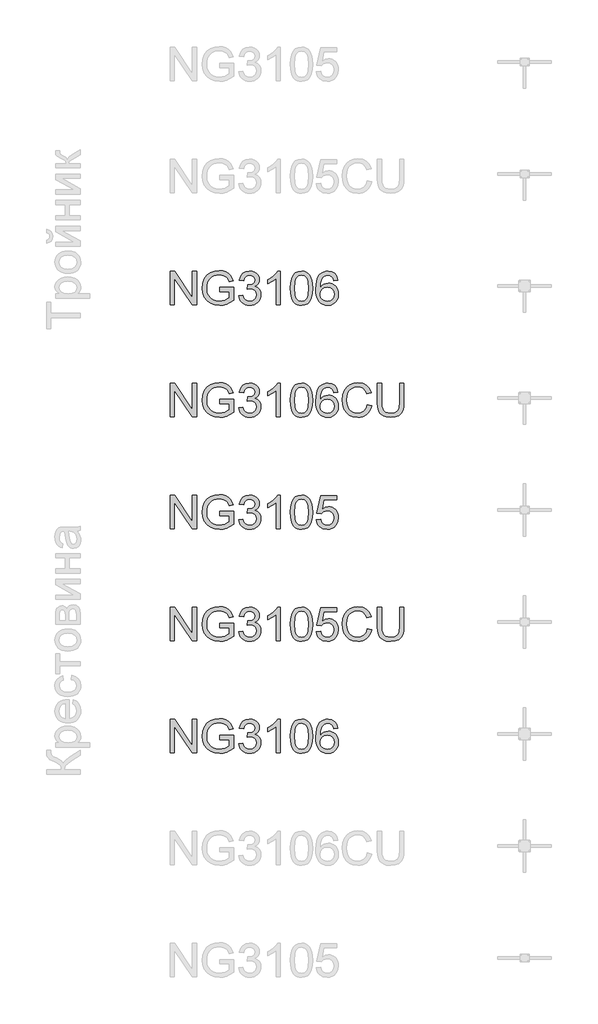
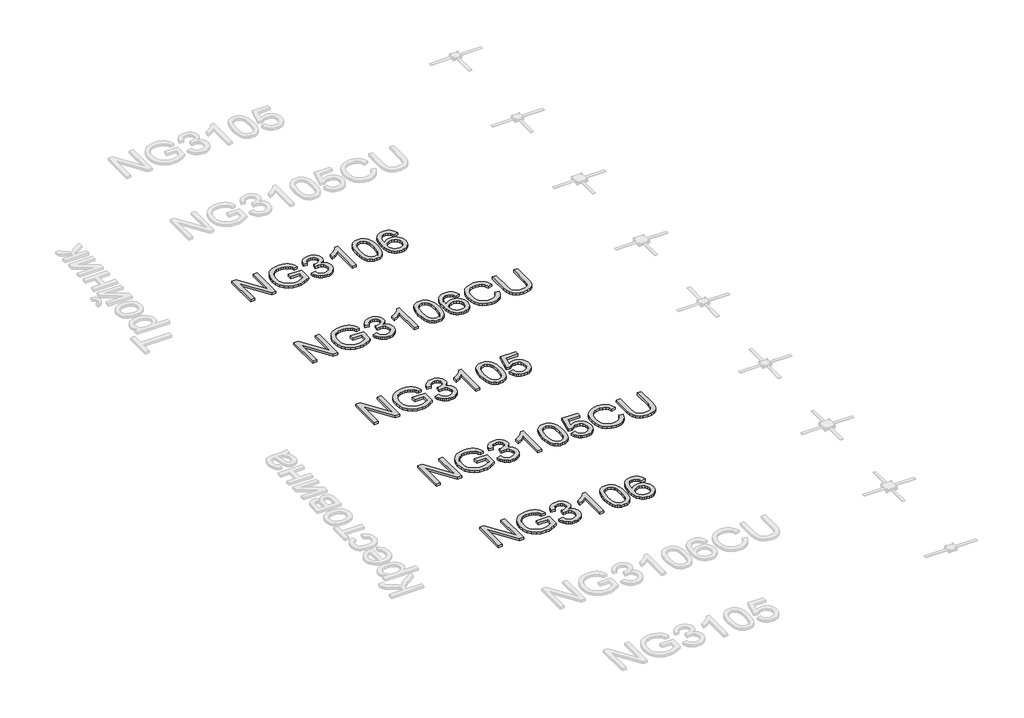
# One storey, part 120 of 124: 5 proxies.
"""IFC4 building model written with IfcOpenShell, lengths in millimetres."""

from ifc_helpers import new_model, si_unit, origin, origin_with_axes, place, context, project, spatial, polyline, outline, extrude, element, save

model = new_model("IFC4")

# Units and contexts
model_context = context("Model", 3, world=origin())
ifc_project = project(units=[si_unit("LENGTHUNIT", "METRE", prefix="MILLI")], contexts=[model_context])

# Site, building, storey
site = spatial("IfcSite", under=ifc_project)
building = spatial("IfcBuilding", under=site)
storey = spatial("IfcBuildingStorey", under=building, Name="Этаж 01", Elevation=0.0)

# Proxies
placement = place(None, origin())
element("IfcBuildingElementProxy", 1, Name="300", ObjectType="300", at=placement, inside=storey, context=model_context, shape_type="SweptSolid", body=[
    extrude(outline(polyline([(56699.8220677, -11519.5141033), (56699.8220677, -11218.1451728), (56740.1419344, -11218.1451728), (56897.5954283, -11456.9005877), (56897.5954283, -11218.1451728), (56935.2665446, -11218.1451728), (56935.2665446, -11519.5141033), (56894.9466779, -11519.5141033), (56737.493184, -11280.685112), (56737.493184, -11519.5141033), (56699.8220677, -11519.5141033)])), origin_with_axes(), (0.0, 0.0, 1.0), 20.0),
    extrude(outline(polyline([(57142.4576843, -11401.7918648), (57142.4576843, -11364.1207485), (57264.8888123, -11364.1207485), (57264.8888123, -11476.7662154), (57235.1363559, -11497.4595776), (57204.4458005, -11512.3036162), (57172.8907223, -11521.2431486), (57140.5446979, -11524.2229928), (57098.2842537, -11519.4865121), (57060.0889056, -11505.27707), (57028.3590835, -11482.0913073), (57005.4952175, -11450.4258646), (56991.6720515, -11412.4420486), (56987.0643295, -11370.301166), (56991.6536574, -11327.8567808), (57005.4216411, -11288.3738457), (57027.7980634, -11255.2552691), (57058.2127074, -11231.9039594), (57095.2584243, -11218.0532023), (57137.5280656, -11213.4362833), (57168.5589118, -11216.1126248), (57196.4627612, -11224.1416493), (57219.9612236, -11236.9439428), (57237.7759092, -11253.9400909), (57250.9552817, -11275.9486313), (57260.5478047, -11303.7881013), (57225.8197444, -11313.5737624), (57218.0666313, -11293.7173317), (57208.6396552, -11278.7353374), (57196.1684556, -11267.4413602), (57179.282672, -11258.6489805), (57159.1503298, -11252.9927948), (57136.9394544, -11251.1073996), (57110.9393944, -11253.1399476), (57088.7101248, -11259.2375917), (57070.3344191, -11268.6369766), (57055.8950508, -11280.5747474), (57036.5076697, -11309.6006368), (57027.6785018, -11338.037915), (57024.7354458, -11368.7560616), (57028.27631, -11404.780906), (57038.8989026, -11434.4229978), (57056.2813269, -11457.4708048), (57080.1016861, -11473.7127949), (57107.9779443, -11483.3421061), (57137.5280656, -11486.5518765), (57163.6200961, -11484.1330524), (57189.0683331, -11476.87658), (57211.1688439, -11466.8793868), (57227.217696, -11456.2384001), (57227.217696, -11401.7918648), (57142.4576843, -11401.7918648)])), origin_with_axes(), (0.0, 0.0, 1.0), 20.0),
    extrude(outline(polyline([(57311.9777077, -11439.4629811), (57349.648824, -11434.7540916), (57358.0825187, -11458.427298), (57370.4341567, -11474.4117707), (57387.3107432, -11483.51685), (57409.3192836, -11486.5518765), (57435.1445997, -11482.3764158), (57455.0838038, -11469.8500339), (57467.8309149, -11451.1616286), (57472.079952, -11428.5000977), (57467.8677031, -11406.988198), (57455.2309566, -11389.5413944), (57436.1010928, -11377.9807027), (57412.4094924, -11374.1271388), (57385.9955651, -11378.2474171), (57390.1894198, -11340.5763008), (57396.2226846, -11341.0177592), (57418.792245, -11338.3138265), (57438.9705724, -11330.2020285), (57453.2076056, -11316.4800301), (57457.9532834, -11296.9454962), (57454.5135867, -11280.6759149), (57444.1944967, -11267.4781484), (57428.4491473, -11258.7317539), (57408.7306724, -11255.8162891), (57388.9754093, -11258.7593451), (57372.8253897, -11267.588513), (57361.0347717, -11282.3037928), (57354.3577135, -11302.9051845), (57316.6865972, -11298.196295), (57327.7782394, -11264.3695455), (57347.5151084, -11239.1144465), (57374.5176468, -11223.3874912), (57407.4062972, -11218.1451728), (57431.0887007, -11220.7295438), (57452.8397236, -11228.4826569), (57471.1786411, -11240.7147332), (57484.624728, -11256.7359941), (57492.8744817, -11275.1944732), (57495.6243997, -11294.7382042), (57493.0124375, -11312.948363), (57485.176551, -11329.4662646), (57472.2271048, -11343.5377509), (57454.2744634, -11354.4086638), (57477.8556993, -11363.9368075), (57495.3300941, -11380.1604035), (57506.1458247, -11402.196535), (57509.7510683, -11429.1622852), (57507.9484465, -11448.2737549), (57502.5405812, -11465.8769084), (57493.5274723, -11481.9717457), (57480.9091199, -11496.5582668), (57465.536251, -11508.6615844), (57448.2595928, -11517.3068113), (57429.0791453, -11522.4939474), (57407.9949084, -11524.2229928), (57388.9386211, -11522.7468663), (57371.5745909, -11518.3184868), (57355.9028179, -11510.9378542), (57341.9233021, -11500.6049687), (57330.201662, -11487.9268354), (57321.3035162, -11473.5104598), (57315.2288648, -11457.3558417), (57311.9777077, -11439.4629811)])), origin_with_axes(), (0.0, 0.0, 1.0), 20.0),
    extrude(outline(polyline([(57683.9799812, -11519.5141033), (57646.3088649, -11519.5141033), (57646.3088649, -11284.6582375), (57610.6243114, -11310.0788834), (57570.9666323, -11329.0983826), (57570.9666323, -11293.4874054), (57600.5535417, -11277.3925681), (57626.1857197, -11258.2443103), (57646.3916383, -11237.8820419), (57659.6997695, -11218.1451728), (57683.9799812, -11218.1451728), (57683.9799812, -11519.5141033)])), origin_with_axes(), (0.0, 0.0, 1.0), 20.0),
    extrude(outline(polyline([(57773.4488824, -11371.2576592), (57776.2171944, -11323.0191326), (57784.5221305, -11284.5478729), (57798.2809171, -11255.2552691), (57817.4107808, -11234.5527098), (57842.0496775, -11222.2470571), (57872.3355627, -11218.1451728), (57895.5489166, -11220.573194), (57916.3342493, -11227.8572575), (57933.7166736, -11239.7122548), (57946.7213021, -11255.8530773), (57956.5437514, -11276.1417694), (57964.3796379, -11300.4403751), (57969.5115917, -11331.2964775), (57971.222243, -11371.2576592), (57968.4815222, -11419.2202743), (57960.2593596, -11457.5995635), (57946.5833464, -11486.9197585), (57927.4810738, -11507.7050912), (57902.7869949, -11520.0935174), (57872.3355627, -11524.2229928), (57851.5870182, -11522.4295681), (57833.1929184, -11517.0492939), (57817.1532634, -11508.0821703), (57803.4680532, -11495.5281972), (57790.334666, -11472.8344766), (57780.9536751, -11444.5581467), (57775.3250806, -11410.6992076), (57773.4488824, -11371.2576592)]), holes=[polyline([(57811.1199987, -11371.1840828), (57815.5345827, -11430.4406752), (57821.0528126, -11450.7086739), (57828.7783345, -11464.7364742), (57848.4968094, -11481.0980259), (57872.3355627, -11486.5518765), (57896.174316, -11481.0796318), (57915.892791, -11464.6628978), (57923.6183128, -11450.6121048), (57929.1365428, -11430.3487047), (57933.5511267, -11371.1840828), (57929.2836956, -11313.2610627), (57923.9494066, -11293.0597426), (57916.4814021, -11278.6985492), (57896.7997154, -11261.5368541), (57871.8941043, -11255.8162891), (57848.3128684, -11260.8562725), (57829.3669457, -11275.9762225), (57821.3839064, -11291.6112072), (57815.6817355, -11312.6908456), (57811.1199987, -11371.1840828)])]), origin_with_axes(), (0.0, 0.0, 1.0), 20.0),
    extrude(outline(polyline([(58197.2489409, -11298.196295), (58159.5778246, -11302.9051845), (58153.5077716, -11284.2351732), (58145.3040031, -11271.4880621), (58128.2158845, -11259.7342324), (58107.5593104, -11255.8162891), (58090.0481275, -11258.0971575), (58073.5670141, -11264.9397626), (58059.4127543, -11279.3515398), (58047.8520626, -11299.1895763), (58040.0437673, -11327.2497755), (58037.1466966, -11366.3280405), (58052.2574495, -11348.6972959), (58070.3664407, -11336.2720815), (58090.4619947, -11328.9052445), (58111.532436, -11326.4496322), (58129.6322301, -11328.1280938), (58146.3340727, -11333.1634786), (58161.6379637, -11341.5557866), (58175.5439031, -11353.3050178), (58187.0999963, -11367.7121965), (58195.3543486, -11384.0783467), (58200.3069599, -11402.4034686), (58201.9578304, -11422.6875621), (58198.8492275, -11449.6625094), (58189.523419, -11474.669288), (58174.7529569, -11495.8776851), (58155.3103934, -11511.4574876), (58132.0786454, -11521.0316165), (58105.9406297, -11524.2229928), (58083.4837331, -11522.1076713), (58063.2019389, -11515.7617069), (58045.0952469, -11505.1850995), (58029.1636573, -11490.3778492), (58016.1751236, -11470.7145566), (58006.8975995, -11445.5698222), (58001.3310851, -11414.9436461), (57999.4755803, -11378.8360283), (58001.5357194, -11338.3552133), (58007.7161369, -11303.8064954), (58018.0168328, -11275.1898747), (58032.437807, -11252.5053512), (58048.0681933, -11237.4727731), (58066.1909801, -11226.7352174), (58086.8061674, -11220.292684), (58109.9137552, -11218.1451728), (58142.9679525, -11223.4610676), (58169.437062, -11239.4087521), (58187.9783146, -11264.7374275), (58197.2489409, -11298.196295)]), holes=[polyline([(58037.1466966, -11422.0989509), (58039.3263974, -11438.7915965), (58045.8654998, -11454.7300839), (58056.0190429, -11468.4336882), (58069.0420655, -11478.4216844), (58084.7598238, -11484.5193285), (58102.9975737, -11486.5518765), (58127.8571995, -11482.3396276), (58147.4009305, -11469.7028811), (58160.0652682, -11449.8372534), (58164.2867141, -11423.9383609), (58160.1204505, -11399.0787351), (58147.6216597, -11380.1236153), (58127.7468349, -11368.1214652), (58101.4524693, -11364.1207485), (58076.6296317, -11368.1214652), (58055.8718901, -11380.1236153), (58041.8279949, -11398.6188826), (58037.1466966, -11422.0989509)])]), origin_with_axes(), (0.0, 0.0, 1.0), 20.0),
])
element("IfcBuildingElementProxy", 2, Name="300", ObjectType="300", at=placement, inside=storey, context=model_context, shape_type="SweptSolid", body=[
    extrude(outline(polyline([(56699.8220677, -12519.5141033), (56699.8220677, -12218.1451728), (56740.1419344, -12218.1451728), (56897.5954283, -12456.9005877), (56897.5954283, -12218.1451728), (56935.2665446, -12218.1451728), (56935.2665446, -12519.5141033), (56894.9466779, -12519.5141033), (56737.493184, -12280.685112), (56737.493184, -12519.5141033), (56699.8220677, -12519.5141033)])), origin_with_axes(), (0.0, 0.0, 1.0), 20.0),
    extrude(outline(polyline([(57142.4576843, -12401.7918648), (57142.4576843, -12364.1207485), (57264.8888123, -12364.1207485), (57264.8888123, -12476.7662154), (57235.1363559, -12497.4595776), (57204.4458005, -12512.3036162), (57172.8907223, -12521.2431486), (57140.5446979, -12524.2229928), (57098.2842537, -12519.4865121), (57060.0889056, -12505.27707), (57028.3590835, -12482.0913073), (57005.4952175, -12450.4258646), (56991.6720515, -12412.4420486), (56987.0643295, -12370.301166), (56991.6536574, -12327.8567808), (57005.4216411, -12288.3738457), (57027.7980634, -12255.2552691), (57058.2127074, -12231.9039594), (57095.2584243, -12218.0532023), (57137.5280656, -12213.4362833), (57168.5589118, -12216.1126248), (57196.4627612, -12224.1416493), (57219.9612236, -12236.9439428), (57237.7759092, -12253.9400909), (57250.9552817, -12275.9486313), (57260.5478047, -12303.7881013), (57225.8197444, -12313.5737624), (57218.0666313, -12293.7173317), (57208.6396552, -12278.7353374), (57196.1684556, -12267.4413602), (57179.282672, -12258.6489805), (57159.1503298, -12252.9927948), (57136.9394544, -12251.1073996), (57110.9393944, -12253.1399476), (57088.7101248, -12259.2375917), (57070.3344191, -12268.6369766), (57055.8950508, -12280.5747474), (57036.5076697, -12309.6006368), (57027.6785018, -12338.037915), (57024.7354458, -12368.7560616), (57028.27631, -12404.780906), (57038.8989026, -12434.4229978), (57056.2813269, -12457.4708048), (57080.1016861, -12473.7127949), (57107.9779443, -12483.3421061), (57137.5280656, -12486.5518765), (57163.6200961, -12484.1330524), (57189.0683331, -12476.87658), (57211.1688439, -12466.8793868), (57227.217696, -12456.2384001), (57227.217696, -12401.7918648), (57142.4576843, -12401.7918648)])), origin_with_axes(), (0.0, 0.0, 1.0), 20.0),
    extrude(outline(polyline([(57311.9777077, -12439.4629811), (57349.648824, -12434.7540916), (57358.0825187, -12458.427298), (57370.4341567, -12474.4117707), (57387.3107432, -12483.51685), (57409.3192836, -12486.5518765), (57435.1445997, -12482.3764158), (57455.0838038, -12469.8500339), (57467.8309149, -12451.1616286), (57472.079952, -12428.5000977), (57467.8677031, -12406.988198), (57455.2309566, -12389.5413944), (57436.1010928, -12377.9807027), (57412.4094924, -12374.1271388), (57385.9955651, -12378.2474171), (57390.1894198, -12340.5763008), (57396.2226846, -12341.0177592), (57418.792245, -12338.3138265), (57438.9705724, -12330.2020285), (57453.2076056, -12316.4800301), (57457.9532834, -12296.9454962), (57454.5135867, -12280.6759149), (57444.1944967, -12267.4781484), (57428.4491473, -12258.7317539), (57408.7306724, -12255.8162891), (57388.9754093, -12258.7593451), (57372.8253897, -12267.588513), (57361.0347717, -12282.3037928), (57354.3577135, -12302.9051845), (57316.6865972, -12298.196295), (57327.7782394, -12264.3695455), (57347.5151084, -12239.1144465), (57374.5176468, -12223.3874912), (57407.4062972, -12218.1451728), (57431.0887007, -12220.7295438), (57452.8397236, -12228.4826569), (57471.1786411, -12240.7147332), (57484.624728, -12256.7359941), (57492.8744817, -12275.1944732), (57495.6243997, -12294.7382042), (57493.0124375, -12312.948363), (57485.176551, -12329.4662646), (57472.2271048, -12343.5377509), (57454.2744634, -12354.4086638), (57477.8556993, -12363.9368075), (57495.3300941, -12380.1604035), (57506.1458247, -12402.196535), (57509.7510683, -12429.1622852), (57507.9484465, -12448.2737549), (57502.5405812, -12465.8769084), (57493.5274723, -12481.9717457), (57480.9091199, -12496.5582668), (57465.536251, -12508.6615844), (57448.2595928, -12517.3068113), (57429.0791453, -12522.4939474), (57407.9949084, -12524.2229928), (57388.9386211, -12522.7468663), (57371.5745909, -12518.3184868), (57355.9028179, -12510.9378542), (57341.9233021, -12500.6049687), (57330.201662, -12487.9268354), (57321.3035162, -12473.5104598), (57315.2288648, -12457.3558417), (57311.9777077, -12439.4629811)])), origin_with_axes(), (0.0, 0.0, 1.0), 20.0),
    extrude(outline(polyline([(57683.9799812, -12519.5141033), (57646.3088649, -12519.5141033), (57646.3088649, -12284.6582375), (57610.6243114, -12310.0788834), (57570.9666323, -12329.0983826), (57570.9666323, -12293.4874054), (57600.5535417, -12277.3925681), (57626.1857197, -12258.2443103), (57646.3916383, -12237.8820419), (57659.6997695, -12218.1451728), (57683.9799812, -12218.1451728), (57683.9799812, -12519.5141033)])), origin_with_axes(), (0.0, 0.0, 1.0), 20.0),
    extrude(outline(polyline([(57773.4488824, -12371.2576592), (57776.2171944, -12323.0191326), (57784.5221305, -12284.5478729), (57798.2809171, -12255.2552691), (57817.4107808, -12234.5527098), (57842.0496775, -12222.2470571), (57872.3355627, -12218.1451728), (57895.5489166, -12220.573194), (57916.3342493, -12227.8572575), (57933.7166736, -12239.7122548), (57946.7213021, -12255.8530773), (57956.5437514, -12276.1417694), (57964.3796379, -12300.4403751), (57969.5115917, -12331.2964775), (57971.222243, -12371.2576592), (57968.4815222, -12419.2202743), (57960.2593596, -12457.5995635), (57946.5833464, -12486.9197585), (57927.4810738, -12507.7050912), (57902.7869949, -12520.0935174), (57872.3355627, -12524.2229928), (57851.5870182, -12522.4295681), (57833.1929184, -12517.0492939), (57817.1532634, -12508.0821703), (57803.4680532, -12495.5281972), (57790.334666, -12472.8344766), (57780.9536751, -12444.5581467), (57775.3250806, -12410.6992076), (57773.4488824, -12371.2576592)]), holes=[polyline([(57811.1199987, -12371.1840828), (57815.5345827, -12430.4406752), (57821.0528126, -12450.7086739), (57828.7783345, -12464.7364742), (57848.4968094, -12481.0980259), (57872.3355627, -12486.5518765), (57896.174316, -12481.0796318), (57915.892791, -12464.6628978), (57923.6183128, -12450.6121048), (57929.1365428, -12430.3487047), (57933.5511267, -12371.1840828), (57929.2836956, -12313.2610627), (57923.9494066, -12293.0597426), (57916.4814021, -12278.6985492), (57896.7997154, -12261.5368541), (57871.8941043, -12255.8162891), (57848.3128684, -12260.8562725), (57829.3669457, -12275.9762225), (57821.3839064, -12291.6112072), (57815.6817355, -12312.6908456), (57811.1199987, -12371.1840828)])]), origin_with_axes(), (0.0, 0.0, 1.0), 20.0),
    extrude(outline(polyline([(58197.2489409, -12298.196295), (58159.5778246, -12302.9051845), (58153.5077716, -12284.2351732), (58145.3040031, -12271.4880621), (58128.2158845, -12259.7342324), (58107.5593104, -12255.8162891), (58090.0481275, -12258.0971575), (58073.5670141, -12264.9397626), (58059.4127543, -12279.3515398), (58047.8520626, -12299.1895763), (58040.0437673, -12327.2497755), (58037.1466966, -12366.3280405), (58052.2574495, -12348.6972959), (58070.3664407, -12336.2720815), (58090.4619947, -12328.9052445), (58111.532436, -12326.4496322), (58129.6322301, -12328.1280938), (58146.3340727, -12333.1634786), (58161.6379637, -12341.5557866), (58175.5439031, -12353.3050178), (58187.0999963, -12367.7121965), (58195.3543486, -12384.0783467), (58200.3069599, -12402.4034686), (58201.9578304, -12422.6875621), (58198.8492275, -12449.6625094), (58189.523419, -12474.669288), (58174.7529569, -12495.8776851), (58155.3103934, -12511.4574876), (58132.0786454, -12521.0316165), (58105.9406297, -12524.2229928), (58083.4837331, -12522.1076713), (58063.2019389, -12515.7617069), (58045.0952469, -12505.1850995), (58029.1636573, -12490.3778492), (58016.1751236, -12470.7145566), (58006.8975995, -12445.5698222), (58001.3310851, -12414.9436461), (57999.4755803, -12378.8360283), (58001.5357194, -12338.3552133), (58007.7161369, -12303.8064954), (58018.0168328, -12275.1898747), (58032.437807, -12252.5053512), (58048.0681933, -12237.4727731), (58066.1909801, -12226.7352174), (58086.8061674, -12220.292684), (58109.9137552, -12218.1451728), (58142.9679525, -12223.4610676), (58169.437062, -12239.4087521), (58187.9783146, -12264.7374275), (58197.2489409, -12298.196295)]), holes=[polyline([(58037.1466966, -12422.0989509), (58039.3263974, -12438.7915965), (58045.8654998, -12454.7300839), (58056.0190429, -12468.4336882), (58069.0420655, -12478.4216844), (58084.7598238, -12484.5193285), (58102.9975737, -12486.5518765), (58127.8571995, -12482.3396276), (58147.4009305, -12469.7028811), (58160.0652682, -12449.8372534), (58164.2867141, -12423.9383609), (58160.1204505, -12399.0787351), (58147.6216597, -12380.1236153), (58127.7468349, -12368.1214652), (58101.4524693, -12364.1207485), (58076.6296317, -12368.1214652), (58055.8718901, -12380.1236153), (58041.8279949, -12398.6188826), (58037.1466966, -12422.0989509)])]), origin_with_axes(), (0.0, 0.0, 1.0), 20.0),
    extrude(outline(polyline([(58460.946755, -12412.3868663), (58498.6178713, -12422.0989509), (58491.1636624, -12445.5261362), (58481.235447, -12465.99647), (58468.8332253, -12483.5099522), (58453.9569971, -12498.0665829), (58436.9424548, -12509.5100123), (58418.1252908, -12517.6838903), (58397.5055049, -12522.5882172), (58375.0830973, -12524.2229928), (58331.3879134, -12519.27498), (58296.6874442, -12504.4309415), (58270.0895759, -12480.2059121), (58250.7021948, -12447.1149266), (58238.8655916, -12408.2114056), (58234.9200572, -12366.5487697), (58239.3806264, -12322.6052653), (58252.7623339, -12284.6582375), (58274.3662041, -12253.9124998), (58303.4932611, -12231.5728656), (58338.0373804, -12217.9704289), (58375.8924377, -12213.4362833), (58417.1963887, -12219.3040011), (58435.1651249, -12226.6386484), (58451.3450349, -12236.9071546), (58465.4694043, -12249.8382067), (58477.2715185, -12265.1604918), (58493.9089818, -12302.9787609), (58456.2378655, -12311.9550816), (58443.1780546, -12284.4834936), (58425.3357779, -12265.6387384), (58402.490306, -12254.7402343), (58374.4209097, -12251.1073996), (58342.0656883, -12255.1357074), (58315.4862141, -12267.220631), (58295.3170837, -12286.0929773), (58282.1928935, -12310.4835536), (58274.9916035, -12338.0563091), (58272.5911735, -12366.4751933), (58275.4330619, -12401.27683), (58283.9587271, -12431.3695772), (58298.4900659, -12455.6038036), (58319.3489751, -12472.8298781), (58344.3557537, -12483.1213769), (58371.330701, -12486.5518765), (58402.7754145, -12481.8797752), (58428.9778096, -12467.8634711), (58448.7606639, -12444.6501172), (58460.946755, -12412.3868663)])), origin_with_axes(), (0.0, 0.0, 1.0), 20.0),
    extrude(outline(polyline([(58748.1890168, -12218.1451728), (58785.8601331, -12218.1451728), (58785.8601331, -12392.0062037), (58783.3033533, -12432.7215435), (58775.6330137, -12464.0742866), (58761.30401, -12488.2625278), (58738.7712378, -12507.484362), (58707.9795148, -12520.0383351), (58668.8736587, -12524.2229928), (58630.6231282, -12520.580961), (58600.0429374, -12509.6548658), (58577.1238891, -12491.8217861), (58561.8567863, -12467.4588009), (58553.2759387, -12434.7816827), (58550.4156562, -12392.0062037), (58550.4156562, -12218.1451728), (58588.0867725, -12218.1451728), (58588.0867725, -12390.6818285), (58589.9445766, -12424.5361692), (58595.5179888, -12448.108208), (58605.6163496, -12464.4329715), (58621.0489993, -12476.5454862), (58641.1721444, -12484.0502789), (58665.3419915, -12486.5518765), (58703.6569013, -12481.6038637), (58717.9997006, -12475.4188476), (58729.1327295, -12466.7598252), (58737.4698552, -12454.5829311), (58743.424945, -12437.8443003), (58748.1890168, -12390.6818285), (58748.1890168, -12218.1451728)])), origin_with_axes(), (0.0, 0.0, 1.0), 20.0),
])
element("IfcBuildingElementProxy", 3, Name="300", ObjectType="300", at=placement, inside=storey, context=model_context, shape_type="SweptSolid", body=[
    extrude(outline(polyline([(56699.8220677, -13519.5141033), (56699.8220677, -13218.1451728), (56740.1419344, -13218.1451728), (56897.5954283, -13456.9005877), (56897.5954283, -13218.1451728), (56935.2665446, -13218.1451728), (56935.2665446, -13519.5141033), (56894.9466779, -13519.5141033), (56737.493184, -13280.685112), (56737.493184, -13519.5141033), (56699.8220677, -13519.5141033)])), origin_with_axes(), (0.0, 0.0, 1.0), 20.0),
    extrude(outline(polyline([(57142.4576843, -13401.7918648), (57142.4576843, -13364.1207485), (57264.8888123, -13364.1207485), (57264.8888123, -13476.7662154), (57235.1363559, -13497.4595776), (57204.4458005, -13512.3036162), (57172.8907223, -13521.2431486), (57140.5446979, -13524.2229928), (57098.2842537, -13519.4865121), (57060.0889056, -13505.27707), (57028.3590835, -13482.0913073), (57005.4952175, -13450.4258646), (56991.6720515, -13412.4420486), (56987.0643295, -13370.301166), (56991.6536574, -13327.8567808), (57005.4216411, -13288.3738457), (57027.7980634, -13255.2552691), (57058.2127074, -13231.9039594), (57095.2584243, -13218.0532023), (57137.5280656, -13213.4362833), (57168.5589118, -13216.1126248), (57196.4627612, -13224.1416493), (57219.9612236, -13236.9439428), (57237.7759092, -13253.9400909), (57250.9552817, -13275.9486313), (57260.5478047, -13303.7881013), (57225.8197444, -13313.5737624), (57218.0666313, -13293.7173317), (57208.6396552, -13278.7353374), (57196.1684556, -13267.4413602), (57179.282672, -13258.6489805), (57159.1503298, -13252.9927948), (57136.9394544, -13251.1073996), (57110.9393944, -13253.1399476), (57088.7101248, -13259.2375917), (57070.3344191, -13268.6369766), (57055.8950508, -13280.5747474), (57036.5076697, -13309.6006368), (57027.6785018, -13338.037915), (57024.7354458, -13368.7560616), (57028.27631, -13404.780906), (57038.8989026, -13434.4229978), (57056.2813269, -13457.4708048), (57080.1016861, -13473.7127949), (57107.9779443, -13483.3421061), (57137.5280656, -13486.5518765), (57163.6200961, -13484.1330524), (57189.0683331, -13476.87658), (57211.1688439, -13466.8793868), (57227.217696, -13456.2384001), (57227.217696, -13401.7918648), (57142.4576843, -13401.7918648)])), origin_with_axes(), (0.0, 0.0, 1.0), 20.0),
    extrude(outline(polyline([(57311.9777077, -13439.4629811), (57349.648824, -13434.7540916), (57358.0825187, -13458.427298), (57370.4341567, -13474.4117707), (57387.3107432, -13483.51685), (57409.3192836, -13486.5518765), (57435.1445997, -13482.3764158), (57455.0838038, -13469.8500339), (57467.8309149, -13451.1616286), (57472.079952, -13428.5000977), (57467.8677031, -13406.988198), (57455.2309566, -13389.5413944), (57436.1010928, -13377.9807027), (57412.4094924, -13374.1271388), (57385.9955651, -13378.2474171), (57390.1894198, -13340.5763008), (57396.2226846, -13341.0177592), (57418.792245, -13338.3138265), (57438.9705724, -13330.2020285), (57453.2076056, -13316.4800301), (57457.9532834, -13296.9454962), (57454.5135867, -13280.6759149), (57444.1944967, -13267.4781484), (57428.4491473, -13258.7317539), (57408.7306724, -13255.8162891), (57388.9754093, -13258.7593451), (57372.8253897, -13267.588513), (57361.0347717, -13282.3037928), (57354.3577135, -13302.9051845), (57316.6865972, -13298.196295), (57327.7782394, -13264.3695455), (57347.5151084, -13239.1144465), (57374.5176468, -13223.3874912), (57407.4062972, -13218.1451728), (57431.0887007, -13220.7295438), (57452.8397236, -13228.4826569), (57471.1786411, -13240.7147332), (57484.624728, -13256.7359941), (57492.8744817, -13275.1944732), (57495.6243997, -13294.7382042), (57493.0124375, -13312.948363), (57485.176551, -13329.4662646), (57472.2271048, -13343.5377509), (57454.2744634, -13354.4086638), (57477.8556993, -13363.9368075), (57495.3300941, -13380.1604035), (57506.1458247, -13402.196535), (57509.7510683, -13429.1622852), (57507.9484465, -13448.2737549), (57502.5405812, -13465.8769084), (57493.5274723, -13481.9717457), (57480.9091199, -13496.5582668), (57465.536251, -13508.6615844), (57448.2595928, -13517.3068113), (57429.0791453, -13522.4939474), (57407.9949084, -13524.2229928), (57388.9386211, -13522.7468663), (57371.5745909, -13518.3184868), (57355.9028179, -13510.9378542), (57341.9233021, -13500.6049687), (57330.201662, -13487.9268354), (57321.3035162, -13473.5104598), (57315.2288648, -13457.3558417), (57311.9777077, -13439.4629811)])), origin_with_axes(), (0.0, 0.0, 1.0), 20.0),
    extrude(outline(polyline([(57683.9799812, -13519.5141033), (57646.3088649, -13519.5141033), (57646.3088649, -13284.6582375), (57610.6243114, -13310.0788834), (57570.9666323, -13329.0983826), (57570.9666323, -13293.4874054), (57600.5535417, -13277.3925681), (57626.1857197, -13258.2443103), (57646.3916383, -13237.8820419), (57659.6997695, -13218.1451728), (57683.9799812, -13218.1451728), (57683.9799812, -13519.5141033)])), origin_with_axes(), (0.0, 0.0, 1.0), 20.0),
    extrude(outline(polyline([(57773.4488824, -13371.2576592), (57776.2171944, -13323.0191326), (57784.5221305, -13284.5478729), (57798.2809171, -13255.2552691), (57817.4107808, -13234.5527098), (57842.0496775, -13222.2470571), (57872.3355627, -13218.1451728), (57895.5489166, -13220.573194), (57916.3342493, -13227.8572575), (57933.7166736, -13239.7122548), (57946.7213021, -13255.8530773), (57956.5437514, -13276.1417694), (57964.3796379, -13300.4403751), (57969.5115917, -13331.2964775), (57971.222243, -13371.2576592), (57968.4815222, -13419.2202743), (57960.2593596, -13457.5995635), (57946.5833464, -13486.9197585), (57927.4810738, -13507.7050912), (57902.7869949, -13520.0935174), (57872.3355627, -13524.2229928), (57851.5870182, -13522.4295681), (57833.1929184, -13517.0492939), (57817.1532634, -13508.0821703), (57803.4680532, -13495.5281972), (57790.334666, -13472.8344766), (57780.9536751, -13444.5581467), (57775.3250806, -13410.6992076), (57773.4488824, -13371.2576592)]), holes=[polyline([(57811.1199987, -13371.1840828), (57815.5345827, -13430.4406752), (57821.0528126, -13450.7086739), (57828.7783345, -13464.7364742), (57848.4968094, -13481.0980259), (57872.3355627, -13486.5518765), (57896.174316, -13481.0796318), (57915.892791, -13464.6628978), (57923.6183128, -13450.6121048), (57929.1365428, -13430.3487047), (57933.5511267, -13371.1840828), (57929.2836956, -13313.2610627), (57923.9494066, -13293.0597426), (57916.4814021, -13278.6985492), (57896.7997154, -13261.5368541), (57871.8941043, -13255.8162891), (57848.3128684, -13260.8562725), (57829.3669457, -13275.9762225), (57821.3839064, -13291.6112072), (57815.6817355, -13312.6908456), (57811.1199987, -13371.1840828)])]), origin_with_axes(), (0.0, 0.0, 1.0), 20.0),
    extrude(outline(polyline([(58004.1844698, -13439.4629811), (58041.8555861, -13434.7540916), (58048.7717676, -13457.3696372), (58060.838297, -13473.5656421), (58077.9999921, -13483.3053179), (58100.2016705, -13486.5518765), (58127.204209, -13482.036125), (58147.4377187, -13468.4888705), (58160.0744652, -13447.4736116), (58164.2867141, -13420.5538466), (58160.3411797, -13395.2067771), (58148.5045765, -13375.8193959), (58128.684934, -13363.5137432), (58100.7902817, -13359.411859), (58082.5157436, -13361.0489338), (58067.7176904, -13365.9601585), (58046.5644756, -13382.9563067), (58008.8933593, -13378.2474171), (58041.8555861, -13222.8540624), (58187.8311618, -13222.8540624), (58187.8311618, -13260.5251787), (58072.3162153, -13260.5251787), (58056.2029839, -13343.5193568), (58083.1135519, -13327.1853962), (58111.3117068, -13321.7407427), (58129.657522, -13323.4284013), (58146.5088167, -13328.4913773), (58161.8655907, -13336.9296705), (58175.7278441, -13348.7432811), (58187.2034631, -13363.2102406), (58195.4003338, -13379.6085805), (58200.3184563, -13397.9383009), (58201.9578304, -13418.1994018), (58196.0533244, -13455.8705181), (58188.6726918, -13472.6643312), (58178.3398063, -13488.0969809), (58162.6864274, -13503.9021111), (58144.4210864, -13515.1914898), (58123.5437831, -13521.9651171), (58100.0545177, -13524.2229928), (58063.0547861, -13518.4196543), (58047.3761153, -13511.1654812), (58033.5782412, -13501.0096389), (58022.0980237, -13488.4579651), (58013.3723226, -13474.0162975), (58004.1844698, -13439.4629811)])), origin_with_axes(), (0.0, 0.0, 1.0), 20.0),
])
element("IfcBuildingElementProxy", 4, Name="300", ObjectType="300", at=placement, inside=storey, context=model_context, shape_type="SweptSolid", body=[
    extrude(outline(polyline([(56699.8220677, -14519.5141033), (56699.8220677, -14218.1451728), (56740.1419344, -14218.1451728), (56897.5954283, -14456.9005877), (56897.5954283, -14218.1451728), (56935.2665446, -14218.1451728), (56935.2665446, -14519.5141033), (56894.9466779, -14519.5141033), (56737.493184, -14280.685112), (56737.493184, -14519.5141033), (56699.8220677, -14519.5141033)])), origin_with_axes(), (0.0, 0.0, 1.0), 20.0),
    extrude(outline(polyline([(57142.4576843, -14401.7918648), (57142.4576843, -14364.1207485), (57264.8888123, -14364.1207485), (57264.8888123, -14476.7662154), (57235.1363559, -14497.4595776), (57204.4458005, -14512.3036162), (57172.8907223, -14521.2431486), (57140.5446979, -14524.2229928), (57098.2842537, -14519.4865121), (57060.0889056, -14505.27707), (57028.3590835, -14482.0913073), (57005.4952175, -14450.4258646), (56991.6720515, -14412.4420486), (56987.0643295, -14370.301166), (56991.6536574, -14327.8567808), (57005.4216411, -14288.3738457), (57027.7980634, -14255.2552691), (57058.2127074, -14231.9039594), (57095.2584243, -14218.0532023), (57137.5280656, -14213.4362833), (57168.5589118, -14216.1126248), (57196.4627612, -14224.1416493), (57219.9612236, -14236.9439428), (57237.7759092, -14253.9400909), (57250.9552817, -14275.9486313), (57260.5478047, -14303.7881013), (57225.8197444, -14313.5737624), (57218.0666313, -14293.7173317), (57208.6396552, -14278.7353374), (57196.1684556, -14267.4413602), (57179.282672, -14258.6489805), (57159.1503298, -14252.9927948), (57136.9394544, -14251.1073996), (57110.9393944, -14253.1399476), (57088.7101248, -14259.2375917), (57070.3344191, -14268.6369766), (57055.8950508, -14280.5747474), (57036.5076697, -14309.6006368), (57027.6785018, -14338.037915), (57024.7354458, -14368.7560616), (57028.27631, -14404.780906), (57038.8989026, -14434.4229978), (57056.2813269, -14457.4708048), (57080.1016861, -14473.7127949), (57107.9779443, -14483.3421061), (57137.5280656, -14486.5518765), (57163.6200961, -14484.1330524), (57189.0683331, -14476.87658), (57211.1688439, -14466.8793868), (57227.217696, -14456.2384001), (57227.217696, -14401.7918648), (57142.4576843, -14401.7918648)])), origin_with_axes(), (0.0, 0.0, 1.0), 20.0),
    extrude(outline(polyline([(57311.9777077, -14439.4629811), (57349.648824, -14434.7540916), (57358.0825187, -14458.427298), (57370.4341567, -14474.4117707), (57387.3107432, -14483.51685), (57409.3192836, -14486.5518765), (57435.1445997, -14482.3764158), (57455.0838038, -14469.8500339), (57467.8309149, -14451.1616286), (57472.079952, -14428.5000977), (57467.8677031, -14406.988198), (57455.2309566, -14389.5413944), (57436.1010928, -14377.9807027), (57412.4094924, -14374.1271388), (57385.9955651, -14378.2474171), (57390.1894198, -14340.5763008), (57396.2226846, -14341.0177592), (57418.792245, -14338.3138265), (57438.9705724, -14330.2020285), (57453.2076056, -14316.4800301), (57457.9532834, -14296.9454962), (57454.5135867, -14280.6759149), (57444.1944967, -14267.4781484), (57428.4491473, -14258.7317539), (57408.7306724, -14255.8162891), (57388.9754093, -14258.7593451), (57372.8253897, -14267.588513), (57361.0347717, -14282.3037928), (57354.3577135, -14302.9051845), (57316.6865972, -14298.196295), (57327.7782394, -14264.3695455), (57347.5151084, -14239.1144465), (57374.5176468, -14223.3874912), (57407.4062972, -14218.1451728), (57431.0887007, -14220.7295438), (57452.8397236, -14228.4826569), (57471.1786411, -14240.7147332), (57484.624728, -14256.7359941), (57492.8744817, -14275.1944732), (57495.6243997, -14294.7382042), (57493.0124375, -14312.948363), (57485.176551, -14329.4662646), (57472.2271048, -14343.5377509), (57454.2744634, -14354.4086638), (57477.8556993, -14363.9368075), (57495.3300941, -14380.1604035), (57506.1458247, -14402.196535), (57509.7510683, -14429.1622852), (57507.9484465, -14448.2737549), (57502.5405812, -14465.8769084), (57493.5274723, -14481.9717457), (57480.9091199, -14496.5582668), (57465.536251, -14508.6615844), (57448.2595928, -14517.3068113), (57429.0791453, -14522.4939474), (57407.9949084, -14524.2229928), (57388.9386211, -14522.7468663), (57371.5745909, -14518.3184868), (57355.9028179, -14510.9378542), (57341.9233021, -14500.6049687), (57330.201662, -14487.9268354), (57321.3035162, -14473.5104598), (57315.2288648, -14457.3558417), (57311.9777077, -14439.4629811)])), origin_with_axes(), (0.0, 0.0, 1.0), 20.0),
    extrude(outline(polyline([(57683.9799812, -14519.5141033), (57646.3088649, -14519.5141033), (57646.3088649, -14284.6582375), (57610.6243114, -14310.0788834), (57570.9666323, -14329.0983826), (57570.9666323, -14293.4874054), (57600.5535417, -14277.3925681), (57626.1857197, -14258.2443103), (57646.3916383, -14237.8820419), (57659.6997695, -14218.1451728), (57683.9799812, -14218.1451728), (57683.9799812, -14519.5141033)])), origin_with_axes(), (0.0, 0.0, 1.0), 20.0),
    extrude(outline(polyline([(57773.4488824, -14371.2576592), (57776.2171944, -14323.0191326), (57784.5221305, -14284.5478729), (57798.2809171, -14255.2552691), (57817.4107808, -14234.5527098), (57842.0496775, -14222.2470571), (57872.3355627, -14218.1451728), (57895.5489166, -14220.573194), (57916.3342493, -14227.8572575), (57933.7166736, -14239.7122548), (57946.7213021, -14255.8530773), (57956.5437514, -14276.1417694), (57964.3796379, -14300.4403751), (57969.5115917, -14331.2964775), (57971.222243, -14371.2576592), (57968.4815222, -14419.2202743), (57960.2593596, -14457.5995635), (57946.5833464, -14486.9197585), (57927.4810738, -14507.7050912), (57902.7869949, -14520.0935174), (57872.3355627, -14524.2229928), (57851.5870182, -14522.4295681), (57833.1929184, -14517.0492939), (57817.1532634, -14508.0821703), (57803.4680532, -14495.5281972), (57790.334666, -14472.8344766), (57780.9536751, -14444.5581467), (57775.3250806, -14410.6992076), (57773.4488824, -14371.2576592)]), holes=[polyline([(57811.1199987, -14371.1840828), (57815.5345827, -14430.4406752), (57821.0528126, -14450.7086739), (57828.7783345, -14464.7364742), (57848.4968094, -14481.0980259), (57872.3355627, -14486.5518765), (57896.174316, -14481.0796318), (57915.892791, -14464.6628978), (57923.6183128, -14450.6121048), (57929.1365428, -14430.3487047), (57933.5511267, -14371.1840828), (57929.2836956, -14313.2610627), (57923.9494066, -14293.0597426), (57916.4814021, -14278.6985492), (57896.7997154, -14261.5368541), (57871.8941043, -14255.8162891), (57848.3128684, -14260.8562725), (57829.3669457, -14275.9762225), (57821.3839064, -14291.6112072), (57815.6817355, -14312.6908456), (57811.1199987, -14371.1840828)])]), origin_with_axes(), (0.0, 0.0, 1.0), 20.0),
    extrude(outline(polyline([(58004.1844698, -14439.4629811), (58041.8555861, -14434.7540916), (58048.7717676, -14457.3696372), (58060.838297, -14473.5656421), (58077.9999921, -14483.3053179), (58100.2016705, -14486.5518765), (58127.204209, -14482.036125), (58147.4377187, -14468.4888705), (58160.0744652, -14447.4736116), (58164.2867141, -14420.5538466), (58160.3411797, -14395.2067771), (58148.5045765, -14375.8193959), (58128.684934, -14363.5137432), (58100.7902817, -14359.411859), (58082.5157436, -14361.0489338), (58067.7176904, -14365.9601585), (58046.5644756, -14382.9563067), (58008.8933593, -14378.2474171), (58041.8555861, -14222.8540624), (58187.8311618, -14222.8540624), (58187.8311618, -14260.5251787), (58072.3162153, -14260.5251787), (58056.2029839, -14343.5193568), (58083.1135519, -14327.1853962), (58111.3117068, -14321.7407427), (58129.657522, -14323.4284013), (58146.5088167, -14328.4913773), (58161.8655907, -14336.9296705), (58175.7278441, -14348.7432811), (58187.2034631, -14363.2102406), (58195.4003338, -14379.6085805), (58200.3184563, -14397.9383009), (58201.9578304, -14418.1994018), (58196.0533244, -14455.8705181), (58188.6726918, -14472.6643312), (58178.3398063, -14488.0969809), (58162.6864274, -14503.9021111), (58144.4210864, -14515.1914898), (58123.5437831, -14521.9651171), (58100.0545177, -14524.2229928), (58063.0547861, -14518.4196543), (58047.3761153, -14511.1654812), (58033.5782412, -14501.0096389), (58022.0980237, -14488.4579651), (58013.3723226, -14474.0162975), (58004.1844698, -14439.4629811)])), origin_with_axes(), (0.0, 0.0, 1.0), 20.0),
    extrude(outline(polyline([(58460.946755, -14412.3868663), (58498.6178713, -14422.0989509), (58491.1636624, -14445.5261362), (58481.235447, -14465.99647), (58468.8332253, -14483.5099522), (58453.9569971, -14498.0665829), (58436.9424548, -14509.5100123), (58418.1252908, -14517.6838903), (58397.5055049, -14522.5882172), (58375.0830973, -14524.2229928), (58331.3879134, -14519.27498), (58296.6874442, -14504.4309415), (58270.0895759, -14480.2059121), (58250.7021948, -14447.1149266), (58238.8655916, -14408.2114056), (58234.9200572, -14366.5487697), (58239.3806264, -14322.6052653), (58252.7623339, -14284.6582375), (58274.3662041, -14253.9124998), (58303.4932611, -14231.5728656), (58338.0373804, -14217.9704289), (58375.8924377, -14213.4362833), (58417.1963887, -14219.3040011), (58435.1651249, -14226.6386484), (58451.3450349, -14236.9071546), (58465.4694043, -14249.8382067), (58477.2715185, -14265.1604918), (58493.9089818, -14302.9787609), (58456.2378655, -14311.9550816), (58443.1780546, -14284.4834936), (58425.3357779, -14265.6387384), (58402.490306, -14254.7402343), (58374.4209097, -14251.1073996), (58342.0656883, -14255.1357074), (58315.4862141, -14267.220631), (58295.3170837, -14286.0929773), (58282.1928935, -14310.4835536), (58274.9916035, -14338.0563091), (58272.5911735, -14366.4751933), (58275.4330619, -14401.27683), (58283.9587271, -14431.3695772), (58298.4900659, -14455.6038036), (58319.3489751, -14472.8298781), (58344.3557537, -14483.1213769), (58371.330701, -14486.5518765), (58402.7754145, -14481.8797752), (58428.9778096, -14467.8634711), (58448.7606639, -14444.6501172), (58460.946755, -14412.3868663)])), origin_with_axes(), (0.0, 0.0, 1.0), 20.0),
    extrude(outline(polyline([(58748.1890168, -14218.1451728), (58785.8601331, -14218.1451728), (58785.8601331, -14392.0062037), (58783.3033533, -14432.7215435), (58775.6330137, -14464.0742866), (58761.30401, -14488.2625278), (58738.7712378, -14507.484362), (58707.9795148, -14520.0383351), (58668.8736587, -14524.2229928), (58630.6231282, -14520.580961), (58600.0429374, -14509.6548658), (58577.1238891, -14491.8217861), (58561.8567863, -14467.4588009), (58553.2759387, -14434.7816827), (58550.4156562, -14392.0062037), (58550.4156562, -14218.1451728), (58588.0867725, -14218.1451728), (58588.0867725, -14390.6818285), (58589.9445766, -14424.5361692), (58595.5179888, -14448.108208), (58605.6163496, -14464.4329715), (58621.0489993, -14476.5454862), (58641.1721444, -14484.0502789), (58665.3419915, -14486.5518765), (58703.6569013, -14481.6038637), (58717.9997006, -14475.4188476), (58729.1327295, -14466.7598252), (58737.4698552, -14454.5829311), (58743.424945, -14437.8443003), (58748.1890168, -14390.6818285), (58748.1890168, -14218.1451728)])), origin_with_axes(), (0.0, 0.0, 1.0), 20.0),
])
element("IfcBuildingElementProxy", 5, Name="300", ObjectType="300", at=placement, inside=storey, context=model_context, shape_type="SweptSolid", body=[
    extrude(outline(polyline([(56699.8220677, -15519.5141033), (56699.8220677, -15218.1451728), (56740.1419344, -15218.1451728), (56897.5954283, -15456.9005877), (56897.5954283, -15218.1451728), (56935.2665446, -15218.1451728), (56935.2665446, -15519.5141033), (56894.9466779, -15519.5141033), (56737.493184, -15280.685112), (56737.493184, -15519.5141033), (56699.8220677, -15519.5141033)])), origin_with_axes(), (0.0, 0.0, 1.0), 20.0),
    extrude(outline(polyline([(57142.4576843, -15401.7918648), (57142.4576843, -15364.1207485), (57264.8888123, -15364.1207485), (57264.8888123, -15476.7662154), (57235.1363559, -15497.4595776), (57204.4458005, -15512.3036162), (57172.8907223, -15521.2431486), (57140.5446979, -15524.2229928), (57098.2842537, -15519.4865121), (57060.0889056, -15505.27707), (57028.3590835, -15482.0913073), (57005.4952175, -15450.4258646), (56991.6720515, -15412.4420486), (56987.0643295, -15370.301166), (56991.6536574, -15327.8567808), (57005.4216411, -15288.3738457), (57027.7980634, -15255.2552691), (57058.2127074, -15231.9039594), (57095.2584243, -15218.0532023), (57137.5280656, -15213.4362833), (57168.5589118, -15216.1126248), (57196.4627612, -15224.1416493), (57219.9612236, -15236.9439428), (57237.7759092, -15253.9400909), (57250.9552817, -15275.9486313), (57260.5478047, -15303.7881013), (57225.8197444, -15313.5737624), (57218.0666313, -15293.7173317), (57208.6396552, -15278.7353374), (57196.1684556, -15267.4413602), (57179.282672, -15258.6489805), (57159.1503298, -15252.9927948), (57136.9394544, -15251.1073996), (57110.9393944, -15253.1399476), (57088.7101248, -15259.2375917), (57070.3344191, -15268.6369766), (57055.8950508, -15280.5747474), (57036.5076697, -15309.6006368), (57027.6785018, -15338.037915), (57024.7354458, -15368.7560616), (57028.27631, -15404.780906), (57038.8989026, -15434.4229978), (57056.2813269, -15457.4708048), (57080.1016861, -15473.7127949), (57107.9779443, -15483.3421061), (57137.5280656, -15486.5518765), (57163.6200961, -15484.1330524), (57189.0683331, -15476.87658), (57211.1688439, -15466.8793868), (57227.217696, -15456.2384001), (57227.217696, -15401.7918648), (57142.4576843, -15401.7918648)])), origin_with_axes(), (0.0, 0.0, 1.0), 20.0),
    extrude(outline(polyline([(57311.9777077, -15439.4629811), (57349.648824, -15434.7540916), (57358.0825187, -15458.427298), (57370.4341567, -15474.4117707), (57387.3107432, -15483.51685), (57409.3192836, -15486.5518765), (57435.1445997, -15482.3764158), (57455.0838038, -15469.8500339), (57467.8309149, -15451.1616286), (57472.079952, -15428.5000977), (57467.8677031, -15406.988198), (57455.2309566, -15389.5413944), (57436.1010928, -15377.9807027), (57412.4094924, -15374.1271388), (57385.9955651, -15378.2474171), (57390.1894198, -15340.5763008), (57396.2226846, -15341.0177592), (57418.792245, -15338.3138265), (57438.9705724, -15330.2020285), (57453.2076056, -15316.4800301), (57457.9532834, -15296.9454962), (57454.5135867, -15280.6759149), (57444.1944967, -15267.4781484), (57428.4491473, -15258.7317539), (57408.7306724, -15255.8162891), (57388.9754093, -15258.7593451), (57372.8253897, -15267.588513), (57361.0347717, -15282.3037928), (57354.3577135, -15302.9051845), (57316.6865972, -15298.196295), (57327.7782394, -15264.3695455), (57347.5151084, -15239.1144465), (57374.5176468, -15223.3874912), (57407.4062972, -15218.1451728), (57431.0887007, -15220.7295438), (57452.8397236, -15228.4826569), (57471.1786411, -15240.7147332), (57484.624728, -15256.7359941), (57492.8744817, -15275.1944732), (57495.6243997, -15294.7382042), (57493.0124375, -15312.948363), (57485.176551, -15329.4662646), (57472.2271048, -15343.5377509), (57454.2744634, -15354.4086638), (57477.8556993, -15363.9368075), (57495.3300941, -15380.1604035), (57506.1458247, -15402.196535), (57509.7510683, -15429.1622852), (57507.9484465, -15448.2737549), (57502.5405812, -15465.8769084), (57493.5274723, -15481.9717457), (57480.9091199, -15496.5582668), (57465.536251, -15508.6615844), (57448.2595928, -15517.3068113), (57429.0791453, -15522.4939474), (57407.9949084, -15524.2229928), (57388.9386211, -15522.7468663), (57371.5745909, -15518.3184868), (57355.9028179, -15510.9378542), (57341.9233021, -15500.6049687), (57330.201662, -15487.9268354), (57321.3035162, -15473.5104598), (57315.2288648, -15457.3558417), (57311.9777077, -15439.4629811)])), origin_with_axes(), (0.0, 0.0, 1.0), 20.0),
    extrude(outline(polyline([(57683.9799812, -15519.5141033), (57646.3088649, -15519.5141033), (57646.3088649, -15284.6582375), (57610.6243114, -15310.0788834), (57570.9666323, -15329.0983826), (57570.9666323, -15293.4874054), (57600.5535417, -15277.3925681), (57626.1857197, -15258.2443103), (57646.3916383, -15237.8820419), (57659.6997695, -15218.1451728), (57683.9799812, -15218.1451728), (57683.9799812, -15519.5141033)])), origin_with_axes(), (0.0, 0.0, 1.0), 20.0),
    extrude(outline(polyline([(57773.4488824, -15371.2576592), (57776.2171944, -15323.0191326), (57784.5221305, -15284.5478729), (57798.2809171, -15255.2552691), (57817.4107808, -15234.5527098), (57842.0496775, -15222.2470571), (57872.3355627, -15218.1451728), (57895.5489166, -15220.573194), (57916.3342493, -15227.8572575), (57933.7166736, -15239.7122548), (57946.7213021, -15255.8530773), (57956.5437514, -15276.1417694), (57964.3796379, -15300.4403751), (57969.5115917, -15331.2964775), (57971.222243, -15371.2576592), (57968.4815222, -15419.2202743), (57960.2593596, -15457.5995635), (57946.5833464, -15486.9197585), (57927.4810738, -15507.7050912), (57902.7869949, -15520.0935174), (57872.3355627, -15524.2229928), (57851.5870182, -15522.4295681), (57833.1929184, -15517.0492939), (57817.1532634, -15508.0821703), (57803.4680532, -15495.5281972), (57790.334666, -15472.8344766), (57780.9536751, -15444.5581467), (57775.3250806, -15410.6992076), (57773.4488824, -15371.2576592)]), holes=[polyline([(57811.1199987, -15371.1840828), (57815.5345827, -15430.4406752), (57821.0528126, -15450.7086739), (57828.7783345, -15464.7364742), (57848.4968094, -15481.0980259), (57872.3355627, -15486.5518765), (57896.174316, -15481.0796318), (57915.892791, -15464.6628978), (57923.6183128, -15450.6121048), (57929.1365428, -15430.3487047), (57933.5511267, -15371.1840828), (57929.2836956, -15313.2610627), (57923.9494066, -15293.0597426), (57916.4814021, -15278.6985492), (57896.7997154, -15261.5368541), (57871.8941043, -15255.8162891), (57848.3128684, -15260.8562725), (57829.3669457, -15275.9762225), (57821.3839064, -15291.6112072), (57815.6817355, -15312.6908456), (57811.1199987, -15371.1840828)])]), origin_with_axes(), (0.0, 0.0, 1.0), 20.0),
    extrude(outline(polyline([(58197.2489409, -15298.196295), (58159.5778246, -15302.9051845), (58153.5077716, -15284.2351732), (58145.3040031, -15271.4880621), (58128.2158845, -15259.7342324), (58107.5593104, -15255.8162891), (58090.0481275, -15258.0971575), (58073.5670141, -15264.9397626), (58059.4127543, -15279.3515398), (58047.8520626, -15299.1895763), (58040.0437673, -15327.2497755), (58037.1466966, -15366.3280405), (58052.2574495, -15348.6972959), (58070.3664407, -15336.2720815), (58090.4619947, -15328.9052445), (58111.532436, -15326.4496322), (58129.6322301, -15328.1280938), (58146.3340727, -15333.1634786), (58161.6379637, -15341.5557866), (58175.5439031, -15353.3050178), (58187.0999963, -15367.7121965), (58195.3543486, -15384.0783467), (58200.3069599, -15402.4034686), (58201.9578304, -15422.6875621), (58198.8492275, -15449.6625094), (58189.523419, -15474.669288), (58174.7529569, -15495.8776851), (58155.3103934, -15511.4574876), (58132.0786454, -15521.0316165), (58105.9406297, -15524.2229928), (58083.4837331, -15522.1076713), (58063.2019389, -15515.7617069), (58045.0952469, -15505.1850995), (58029.1636573, -15490.3778492), (58016.1751236, -15470.7145566), (58006.8975995, -15445.5698222), (58001.3310851, -15414.9436461), (57999.4755803, -15378.8360283), (58001.5357194, -15338.3552133), (58007.7161369, -15303.8064954), (58018.0168328, -15275.1898747), (58032.437807, -15252.5053512), (58048.0681933, -15237.4727731), (58066.1909801, -15226.7352174), (58086.8061674, -15220.292684), (58109.9137552, -15218.1451728), (58142.9679525, -15223.4610676), (58169.437062, -15239.4087521), (58187.9783146, -15264.7374275), (58197.2489409, -15298.196295)]), holes=[polyline([(58037.1466966, -15422.0989509), (58039.3263974, -15438.7915965), (58045.8654998, -15454.7300839), (58056.0190429, -15468.4336882), (58069.0420655, -15478.4216844), (58084.7598238, -15484.5193285), (58102.9975737, -15486.5518765), (58127.8571995, -15482.3396276), (58147.4009305, -15469.7028811), (58160.0652682, -15449.8372534), (58164.2867141, -15423.9383609), (58160.1204505, -15399.0787351), (58147.6216597, -15380.1236153), (58127.7468349, -15368.1214652), (58101.4524693, -15364.1207485), (58076.6296317, -15368.1214652), (58055.8718901, -15380.1236153), (58041.8279949, -15398.6188826), (58037.1466966, -15422.0989509)])]), origin_with_axes(), (0.0, 0.0, 1.0), 20.0),
])

save(model, "model.ifc")
